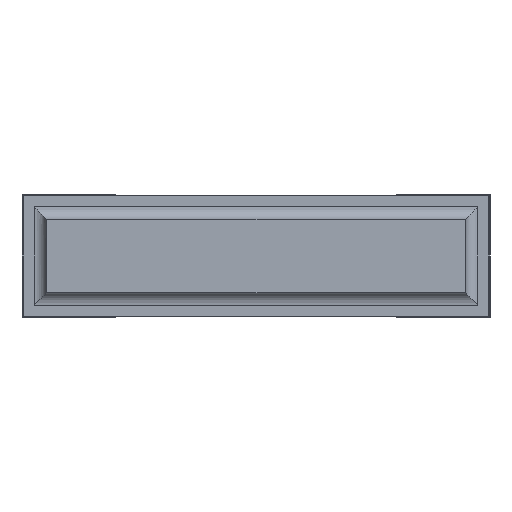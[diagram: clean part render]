
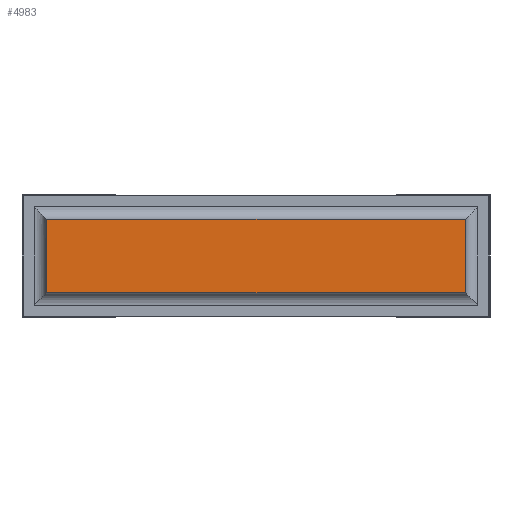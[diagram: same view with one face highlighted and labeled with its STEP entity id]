
A CAD part, front view. The second image highlights one B-rep face of the part: STEP entity #4983.
In plain terms, the highlighted planar face has unit normal (0, -1, 0).
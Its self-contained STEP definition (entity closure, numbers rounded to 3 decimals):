
#193=FACE_OUTER_BOUND('',#503,.T.);
#503=EDGE_LOOP('',(#3311,#3312,#3313,#3314));
#828=LINE('',#7109,#1480);
#832=LINE('',#7121,#1484);
#833=LINE('',#7123,#1485);
#834=LINE('',#7124,#1486);
#1480=VECTOR('',#5706,10.);
#1484=VECTOR('',#5718,10.);
#1485=VECTOR('',#5719,10.);
#1486=VECTOR('',#5720,10.);
#2131=VERTEX_POINT('',#7105);
#2133=VERTEX_POINT('',#7108);
#2137=VERTEX_POINT('',#7120);
#2138=VERTEX_POINT('',#7122);
#2588=EDGE_CURVE('',#2133,#2131,#828,.T.);
#2594=EDGE_CURVE('',#2137,#2133,#832,.T.);
#2595=EDGE_CURVE('',#2138,#2131,#833,.T.);
#2596=EDGE_CURVE('',#2137,#2138,#834,.T.);
#3311=ORIENTED_EDGE('',*,*,#2594,.T.);
#3312=ORIENTED_EDGE('',*,*,#2588,.T.);
#3313=ORIENTED_EDGE('',*,*,#2595,.F.);
#3314=ORIENTED_EDGE('',*,*,#2596,.F.);
#4736=PLANE('',#5331);
#4983=ADVANCED_FACE('',(#193),#4736,.T.);
#5331=AXIS2_PLACEMENT_3D('',#7119,#5716,#5717);
#5706=DIRECTION('',(0.,0.,-1.));
#5716=DIRECTION('center_axis',(0.,-1.,0.));
#5717=DIRECTION('ref_axis',(0.,0.,-1.));
#5718=DIRECTION('',(-1.,0.,0.));
#5719=DIRECTION('',(-1.,0.,0.));
#5720=DIRECTION('',(0.,0.,-1.));
#7105=CARTESIAN_POINT('',(0.1,0.,0.1));
#7108=CARTESIAN_POINT('',(0.1,0.,0.4));
#7109=CARTESIAN_POINT('',(0.1,0.,0.4));
#7119=CARTESIAN_POINT('Origin',(1.81,0.,0.25));
#7120=CARTESIAN_POINT('',(1.81,0.,0.4));
#7121=CARTESIAN_POINT('',(1.81,0.,0.4));
#7122=CARTESIAN_POINT('',(1.81,0.,0.1));
#7123=CARTESIAN_POINT('',(1.81,0.,0.1));
#7124=CARTESIAN_POINT('',(1.81,0.,0.4));
